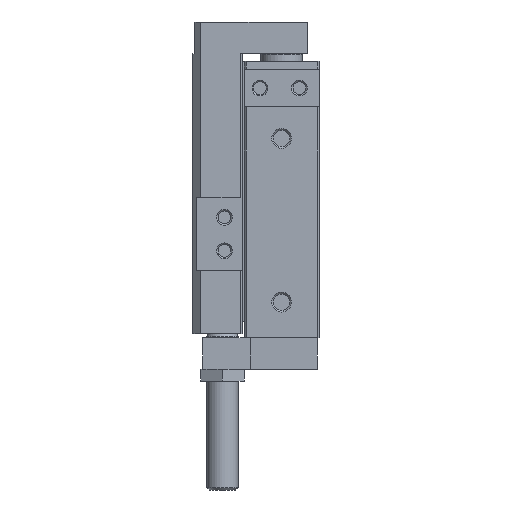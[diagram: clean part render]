
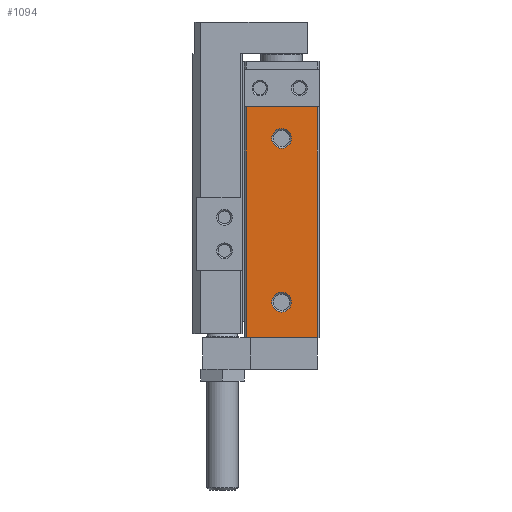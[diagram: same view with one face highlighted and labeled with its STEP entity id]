
A CAD part, left-side view. The second image highlights one B-rep face of the part: STEP entity #1094.
In plain terms, the highlighted planar face has unit normal (-1, 0, 0).
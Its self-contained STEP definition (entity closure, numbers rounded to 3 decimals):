
#1094 = ADVANCED_FACE( '', ( #2469, #2470, #2471 ), #2472, .T. );
#2469 = FACE_BOUND( '', #4119, .T. );
#2470 = FACE_BOUND( '', #4120, .T. );
#2471 = FACE_OUTER_BOUND( '', #4121, .T. );
#2472 = PLANE( '', #4122 );
#4119 = EDGE_LOOP( '', ( #7210 ) );
#4120 = EDGE_LOOP( '', ( #7211 ) );
#4121 = EDGE_LOOP( '', ( #7212, #7213, #7214, #7215 ) );
#4122 = AXIS2_PLACEMENT_3D( '', #7216, #7217, #7218 );
#7210 = ORIENTED_EDGE( '', *, *, #9676, .T. );
#7211 = ORIENTED_EDGE( '', *, *, #10040, .T. );
#7212 = ORIENTED_EDGE( '', *, *, #9665, .T. );
#7213 = ORIENTED_EDGE( '', *, *, #10041, .F. );
#7214 = ORIENTED_EDGE( '', *, *, #9577, .F. );
#7215 = ORIENTED_EDGE( '', *, *, #10027, .T. );
#7216 = CARTESIAN_POINT( '', ( -25., 18.5, -70. ) );
#7217 = DIRECTION( '', ( -1., 0., 0. ) );
#7218 = DIRECTION( '', ( 0., 0., 1. ) );
#9577 = EDGE_CURVE( '', #11599, #11600, #11601, .T. );
#9665 = EDGE_CURVE( '', #11732, #11730, #11733, .T. );
#9676 = EDGE_CURVE( '', #11750, #11750, #11751, .T. );
#10027 = EDGE_CURVE( '', #11599, #11732, #12256, .T. );
#10040 = EDGE_CURVE( '', #12271, #12271, #12272, .T. );
#10041 = EDGE_CURVE( '', #11600, #11730, #12273, .T. );
#11599 = VERTEX_POINT( '', #14364 );
#11600 = VERTEX_POINT( '', #14365 );
#11601 = LINE( '', #14366, #14367 );
#11730 = VERTEX_POINT( '', #14533 );
#11732 = VERTEX_POINT( '', #14536 );
#11733 = LINE( '', #14537, #14538 );
#11750 = VERTEX_POINT( '', #14560 );
#11751 = CIRCLE( '', #14561, 2.5 );
#12256 = LINE( '', #15274, #15275 );
#12271 = VERTEX_POINT( '', #15296 );
#12272 = CIRCLE( '', #15297, 2.5 );
#12273 = LINE( '', #15298, #15299 );
#14364 = CARTESIAN_POINT( '', ( -25., 18.5, -70. ) );
#14365 = CARTESIAN_POINT( '', ( -25., 18.5, -11.5 ) );
#14366 = CARTESIAN_POINT( '', ( -25., 18.5, -70. ) );
#14367 = VECTOR( '', #16594, 1000. );
#14533 = CARTESIAN_POINT( '', ( -25., 0.5, -11.5 ) );
#14536 = CARTESIAN_POINT( '', ( -25., 0.5, -70. ) );
#14537 = CARTESIAN_POINT( '', ( -25., 0.5, -70. ) );
#14538 = VECTOR( '', #16699, 1000. );
#14560 = CARTESIAN_POINT( '', ( -25., 9.5, -63.5 ) );
#14561 = AXIS2_PLACEMENT_3D( '', #16711, #16712, #16713 );
#15274 = CARTESIAN_POINT( '', ( -25., 18.5, -70. ) );
#15275 = VECTOR( '', #17063, 1000. );
#15296 = CARTESIAN_POINT( '', ( -25., 9.5, -22. ) );
#15297 = AXIS2_PLACEMENT_3D( '', #17070, #17071, #17072 );
#15298 = CARTESIAN_POINT( '', ( -25., 19., -11.5 ) );
#15299 = VECTOR( '', #17073, 1000. );
#16594 = DIRECTION( '', ( 0., 0., 1. ) );
#16699 = DIRECTION( '', ( 0., 0., 1. ) );
#16711 = CARTESIAN_POINT( '', ( -25., 9.5, -61. ) );
#16712 = DIRECTION( '', ( 1., 0., 0. ) );
#16713 = DIRECTION( '', ( 0., 0., -1. ) );
#17063 = DIRECTION( '', ( 0., -1., 0. ) );
#17070 = CARTESIAN_POINT( '', ( -25., 9.5, -19.5 ) );
#17071 = DIRECTION( '', ( 1., 0., 0. ) );
#17072 = DIRECTION( '', ( 0., 0., -1. ) );
#17073 = DIRECTION( '', ( 0., -1., 0. ) );
